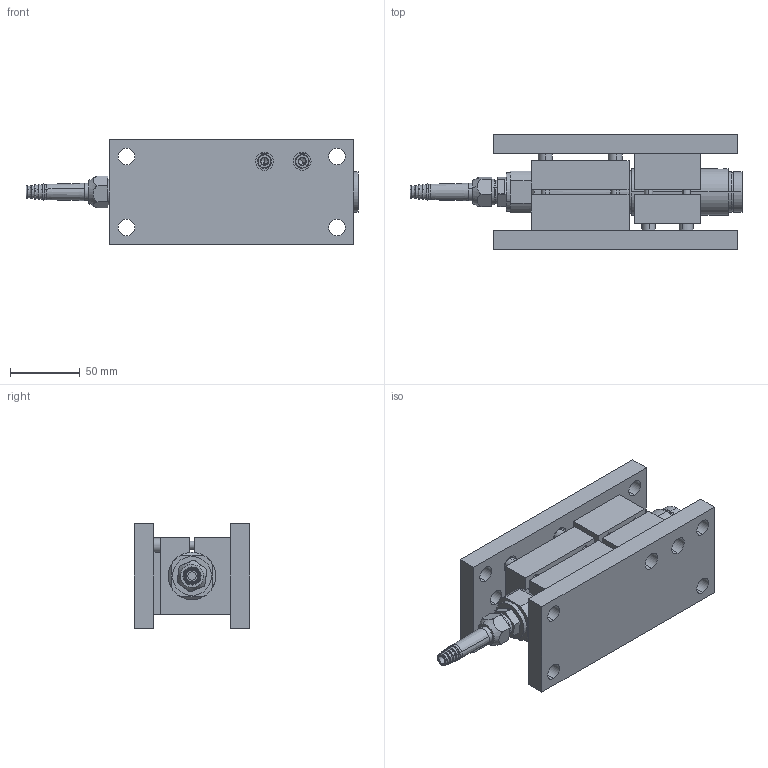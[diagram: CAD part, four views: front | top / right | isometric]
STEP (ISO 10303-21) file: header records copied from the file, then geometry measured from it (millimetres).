
FILE_DESCRIPTION (( 'STEP AP214' ), '1' );
FILE_NAME ('HTK 0,5-5 kN Module.STEP', '2021-06-17T09:07:08', ( '' ), ( '' ), 'SwSTEP 2.0', 'SolidWorks 2021', '' );
FILE_SCHEMA (( 'AUTOMOTIVE_DESIGN' ));
Length unit declared in the file: millimetre
Products named in the file (11): 6335015r4; 504316r0; Wiberger-frp_A2_4x14; 504317r0; 1130486 - KIS-2 5kN Rostfri; 6335014r1; 4087786r5; Wiberger-din912_m6x40; M26x1.5 - Pg9 - 6369829; Pg9 - 1009.52 6_2_14; HTK 0,5-5 kN Module
Assembly tree (13 placements, depth 3):
  HTK 0,5-5 kN Module
    504316r0
    1130486 - KIS-2 5kN Rostfri
      4087786r5
      6335015r4
      6335014r1
      M26x1.5 - Pg9 - 6369829
      Pg9 - 1009.52 6_2_14
      Wiberger-frp_A2_4x14
    504317r0
    Wiberger-din912_m6x40  x4
Bounding box: 238 x 83 x 75 mm (x, y, z)
Volume: 707916.1 mm3; surface area: 158360.4 mm2
Topology: 12 solids, 15 shells, 599 faces, 1427 edges, 884 vertices
Faces by surface type: plane 284, cylinder 155, cone 101, bspline 47, torus 12
Entity records: 21542 total; most frequent: CARTESIAN_POINT 8599, ORIENTED_EDGE 2504, DIRECTION 2396, EDGE_CURVE 1252, AXIS2_PLACEMENT_3D 843, VERTEX_POINT 803, LINE 710, VECTOR 710
